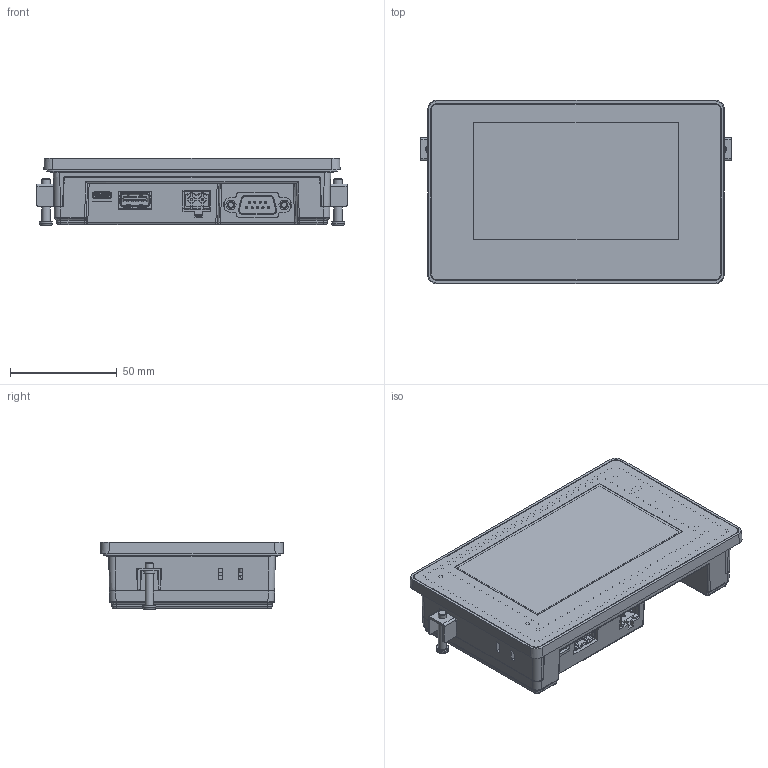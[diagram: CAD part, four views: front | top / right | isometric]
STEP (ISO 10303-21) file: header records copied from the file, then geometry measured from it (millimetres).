
FILE_DESCRIPTION(/* description */ (''),/* implementation_level */ '2;1');
FILE_NAME(/* name */ 'e00d21da-a82e-42e3-8c4c-8d6cba3207ff.zip.stp',/* time_stamp */ '2026-04-09T14:46:57Z',/* author */ (''),/* organization */ (''),/* preprocessor_version */ 'ST-DEVELOPER v20.1',/* originating_system */ 'Autodesk Translation Framework v15.8.0.0',/* authorisation */ '');
FILE_SCHEMA (('AUTOMOTIVE_DESIGN { 1 0 10303 214 3 1 1 }'));
Products named in the file (3): SA-043A-M2-ASM_ASM_ASM; SA-043A-M2-ASM_ASM_691_ASM; 2171750001
Assembly tree (2 placements, depth 2):
  SA-043A-M2-ASM_ASM_ASM
    SA-043A-M2-ASM_ASM_691_ASM
    2171750001
Bounding box: 145.5 x 86 x 31.5 mm (x, y, z)
Volume: 133982.9 mm3; surface area: 161817.3 mm2
Topology: 23 solids, 40 shells, 3369 faces, 9081 edges, 5930 vertices
Faces by surface type: plane 2202, cylinder 784, bspline 273, cone 56, torus 52, sphere 2
Full cylindrical faces by diameter (mm): 0.05 x2, 1 x9, 1.3 x2, 1.6 x2, 1.8 x56, 2 x8, 2.15 x4, 2.5 x2, 2.6 x2, 2.9 x6, 3 x2, 3.3 x2, 4 x4, 4.725 x1, 5 x4, 5.3 x2, 5.6 x4, 5.9 x2, 6.05 x2, 8.2 x2, 22 x2
Entity records: 133568 total; most frequent: CARTESIAN_POINT 49340, ORIENTED_EDGE 18162, DIRECTION 16360, EDGE_CURVE 9081, LINE 6646, VECTOR 6646, VERTEX_POINT 5930, AXIS2_PLACEMENT_3D 4857
